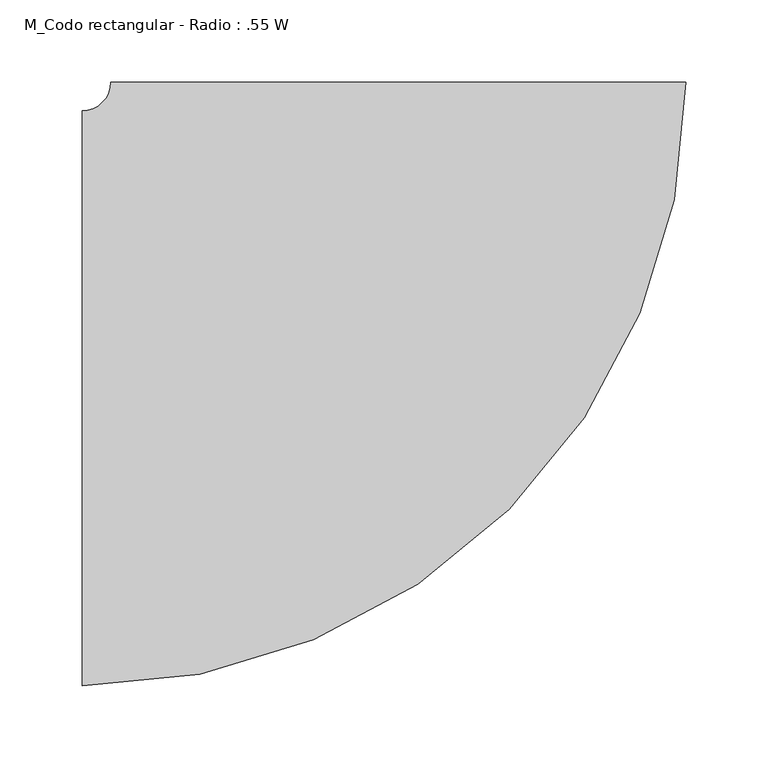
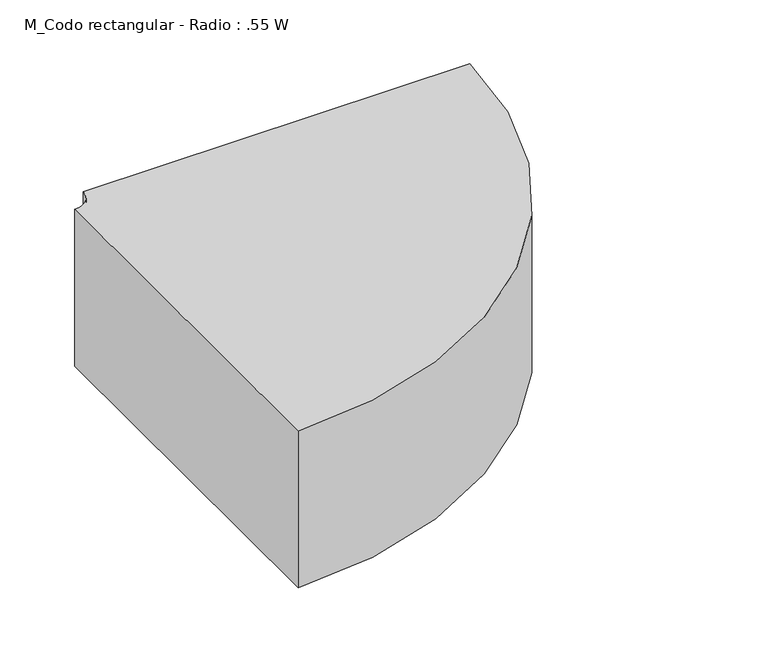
"""IFC4 building model written with IfcOpenShell, lengths in millimetres: duct fitting geometry, M_Codo rectangular - Radio : .55 W."""

import ifcopenshell
import ifcopenshell.guid

model = None  # the IFC model being written
_history = None  # IfcOwnerHistory: only IFC2X3 demands one
_inside = {}  # id of a spatial element -> (the spatial element, [elements in it])
_under = {}  # id of a project, library or spatial element -> (it, [spatial elements below it])
_declared = {}  # id of a project -> (the project, [libraries it declares])
_typed = {}  # id of a type object -> (the type object, [elements of that type])
_made_of = {}  # id of a material, layer set ... -> (it, [elements and type objects made of it])


def new_model(schema):
    """Start an empty IFC model of exactly this schema.

    Asked for "IFC4X3", IfcOpenShell would pick the latest addendum, in which some entities
    have other attributes; the version numbers below select the first issue.
    IFC2X3 requires an IfcOwnerHistory on every rooted entity: one is made here for all.
    """
    global model, _history
    if schema == "IFC4X3":
        model = ifcopenshell.file(schema_version=(4, 3, 0, 0))
    else:
        model = ifcopenshell.file(schema=schema)
    _inside.clear()
    _under.clear()
    _declared.clear()
    _typed.clear()
    _made_of.clear()
    _history = None
    if model.schema == "IFC2X3":
        org = make("IfcOrganization", Name="unknown")
        user = make(
            "IfcPersonAndOrganization",
            ThePerson=make("IfcPerson", FamilyName="unknown"),
            TheOrganization=org,
        )
        app = make(
            "IfcApplication",
            ApplicationDeveloper=org,
            Version="unknown",
            ApplicationFullName="unknown",
            ApplicationIdentifier="unknown",
        )
        _history = make(
            "IfcOwnerHistory",
            OwningUser=user,
            OwningApplication=app,
            ChangeAction="ADDED",
            CreationDate=0,
        )
    return model


def make(cls, **values):
    """One entity of the class cls with the attributes given. An attribute that is None is left unset."""
    return model.create_entity(
        cls, **{name: value for name, value in values.items() if value is not None}
    )


def rooted(cls, **values):
    """An entity with a GlobalId (a new one), such as an element, a storey or a relation."""
    return make(cls, GlobalId=ifcopenshell.guid.new(), OwnerHistory=_history, **values)


def si_unit(unit_type, name, prefix=None):
    """IfcSIUnit, for example si_unit("LENGTHUNIT", "METRE", prefix="MILLI")."""
    return make("IfcSIUnit", UnitType=unit_type, Prefix=prefix, Name=name)


def assignment(units):
    """IfcUnitAssignment: the units of a project."""
    return None if units is None else make("IfcUnitAssignment", Units=units)


def point(xyz):
    """IfcCartesianPoint."""
    return None if xyz is None else make("IfcCartesianPoint", Coordinates=xyz)


def direction(xyz):
    """IfcDirection."""
    return None if xyz is None else make("IfcDirection", DirectionRatios=xyz)


def frame(location, z_axis=None, x_axis=None):
    """IfcAxis2Placement3D, a coordinate frame: its origin and axes. An axis left out is left unset."""
    return make(
        "IfcAxis2Placement3D",
        Location=point(location),
        Axis=direction(z_axis),
        RefDirection=direction(x_axis),
    )


def frame_2d(location, x_axis=None):
    """IfcAxis2Placement2D, a coordinate frame in the plane: its origin and x axis."""
    return make(
        "IfcAxis2Placement2D", Location=point(location), RefDirection=direction(x_axis)
    )


def origin():
    """The frame at (0, 0, 0) with its axes left unset."""
    return frame((0.0, 0.0, 0.0))


def place(relative_to, where):
    """IfcLocalPlacement: puts the frame where relative to a parent placement (None: the world)."""
    return make(
        "IfcLocalPlacement", PlacementRelTo=relative_to, RelativePlacement=where
    )


def context(
    kind, dimensions, precision=None, world=None, true_north=None, identifier=None
):
    """IfcGeometricRepresentationContext, for example the 3D "Model" context."""
    return make(
        "IfcGeometricRepresentationContext",
        ContextIdentifier=identifier,
        ContextType=kind,
        CoordinateSpaceDimension=dimensions,
        Precision=precision,
        WorldCoordinateSystem=world,
        TrueNorth=true_north,
    )


def project(units=None, contexts=None):
    """IfcProject with its units and contexts."""
    return rooted(
        "IfcProject",
        Name="project",
        RepresentationContexts=contexts,
        UnitsInContext=assignment(units),
    )


def spatial(cls, under=None, at=None, **own):
    """A site, building, storey or space (cls), placed at a placement, below another one or the project."""
    s = rooted(cls, ObjectPlacement=at, **own)
    if under is not None:
        _under.setdefault(under.id(), (under, []))[1].append(s)
    return s


def polyline(points):
    """IfcPolyline through the points."""
    return make("IfcPolyline", Points=[point(p) for p in points])


def circle_curve(where, radius):
    """IfcCircle in the frame where."""
    return make("IfcCircle", Position=where, Radius=radius)


def trimmed(basis, trim1, trim2, sense, master):
    """IfcTrimmedCurve: the piece of a basis curve between two trims."""
    return make(
        "IfcTrimmedCurve",
        BasisCurve=basis,
        Trim1=trim1,
        Trim2=trim2,
        SenseAgreement=sense,
        MasterRepresentation=master,
    )


def segment(curve, same_sense, transition):
    """IfcCompositeCurveSegment."""
    return make(
        "IfcCompositeCurveSegment",
        Transition=transition,
        SameSense=same_sense,
        ParentCurve=curve,
    )


def composite_curve(segments, self_intersect=None):
    """IfcCompositeCurve: segments joined end to end."""
    return make("IfcCompositeCurve", Segments=segments, SelfIntersect=self_intersect)


def outline(outer, holes=None, kind="AREA"):
    """IfcArbitraryClosedProfileDef: a profile drawn as a closed curve; with holes, ...WithVoids."""
    if holes is None:
        return make("IfcArbitraryClosedProfileDef", ProfileType=kind, OuterCurve=outer)
    return make(
        "IfcArbitraryProfileDefWithVoids",
        ProfileType=kind,
        OuterCurve=outer,
        InnerCurves=holes,
    )


def extrude(swept, where, along, depth):
    """IfcExtrudedAreaSolid: the profile swept, set in the frame where, extruded along a direction by depth."""
    return make(
        "IfcExtrudedAreaSolid",
        SweptArea=swept,
        Position=where,
        ExtrudedDirection=direction(along),
        Depth=depth,
    )


def shape(context_of_items, identifier, shape_type, items):
    """IfcShapeRepresentation: the items that make up one representation, for example the "Body"."""
    return make(
        "IfcShapeRepresentation",
        ContextOfItems=context_of_items,
        RepresentationIdentifier=identifier,
        RepresentationType=shape_type,
        Items=items,
    )


def source(mapping_origin, context_of_items, identifier, shape_type, items):
    """IfcRepresentationMap: a shape defined once, which mapped items show again and again."""
    return make(
        "IfcRepresentationMap",
        MappingOrigin=mapping_origin,
        MappedRepresentation=shape(context_of_items, identifier, shape_type, items),
    )


def transform(
    local_origin,
    x_axis=None,
    y_axis=None,
    z_axis=None,
    scale=None,
    scale2=None,
    scale3=None,
    uniform=True,
):
    """IfcCartesianTransformationOperator3D, or its non-uniform kind. x_axis, y_axis, z_axis: its Axis1, 2, 3."""
    if uniform:
        return make(
            "IfcCartesianTransformationOperator3D",
            Axis1=direction(x_axis),
            Axis2=direction(y_axis),
            LocalOrigin=point(local_origin),
            Scale=scale,
            Axis3=direction(z_axis),
        )
    return make(
        "IfcCartesianTransformationOperator3DnonUniform",
        Axis1=direction(x_axis),
        Axis2=direction(y_axis),
        LocalOrigin=point(local_origin),
        Scale=scale,
        Axis3=direction(z_axis),
        Scale2=scale2,
        Scale3=scale3,
    )


def mapped(mapping_source, mapping_target):
    """IfcMappedItem: shows the shape of a source again, moved by a transform."""
    return make(
        "IfcMappedItem", MappingSource=mapping_source, MappingTarget=mapping_target
    )


def made_of(thing, what):
    """Note that an element or type object is made of a material, layer set ...; save() writes the relation."""
    if what is not None:
        _made_of.setdefault(what.id(), (what, []))[1].append(thing)
    return thing


def element(
    cls,
    number,
    at=None,
    inside=None,
    cuts=None,
    type_object=None,
    material=None,
    context=None,
    identifier="Body",
    shape_type=None,
    held_by="IfcProductDefinitionShape",
    body=None,
    shapes=None,
    **own,
):
    """One element of the class cls, such as IfcWall. Its Tag is "e" and its number.

    at: its placement. inside: the storey or other place that contains it. cuts: it is an
    opening in that element (IfcRelVoidsElement). A single representation is given by context,
    identifier, shape_type and body (its items); several are given by shapes. held_by: the class
    of the entity that holds the representations. save() writes the other relations.
    """
    e = rooted(cls, Tag="e%d" % number, ObjectPlacement=at, **own)
    if body is not None:
        shapes = [shape(context, identifier, shape_type, body)]
    if shapes is not None:
        e.Representation = make(held_by, Representations=shapes)
    if inside is not None:
        _inside.setdefault(inside.id(), (inside, []))[1].append(e)
    if cuts is not None:
        rooted(
            "IfcRelVoidsElement", RelatingBuildingElement=cuts, RelatedOpeningElement=e
        )
    if type_object is not None:
        _typed.setdefault(type_object.id(), (type_object, []))[1].append(e)
    return made_of(e, material)


def aggregate(whole, parts):
    """IfcRelAggregates: a whole, such as a stair, and the parts it consists of."""
    return rooted("IfcRelAggregates", RelatingObject=whole, RelatedObjects=parts)


def save(model, path):
    """Write the relations noted so far, then the file.

    IfcRelAggregates (storeys below a building ...), IfcRelContainedInSpatialStructure (elements
    in a storey), IfcRelDefinesByType, IfcRelAssociatesMaterial and IfcRelDeclares: one each for
    every whole, place, type object, material and project.
    """
    for whole, parts in _under.values():
        aggregate(whole, parts)
    for where, things in _inside.values():
        rooted(
            "IfcRelContainedInSpatialStructure",
            RelatedElements=things,
            RelatingStructure=where,
        )
    for kind, things in _typed.values():
        rooted("IfcRelDefinesByType", RelatedObjects=things, RelatingType=kind)
    for what, things in _made_of.values():
        rooted("IfcRelAssociatesMaterial", RelatedObjects=things, RelatingMaterial=what)
    for by, libraries in _declared.values():
        rooted("IfcRelDeclares", RelatingContext=by, RelatedDefinitions=libraries)
    model.write(path)


def m_codo_rectangular_radio_55_w_4c35f032(model_context):
    return source(origin(), model_context, "Body", "SweptSolid", [
        extrude(outline(composite_curve([segment(trimmed(circle_curve(frame_2d((-192.5, 192.5)), 367.5), [point((175.0, 192.5))], [point((-192.5, -175.0))], False, "CARTESIAN"), True, "CONTINUOUS"), segment(polyline([(-192.5, -175.0), (-192.5, 175.0)]), True, "CONTINUOUS"), segment(trimmed(circle_curve(frame_2d((-192.5, 192.5)), 17.5), [point((-192.5, 175.0))], [point((-175.0, 192.5))], True, "CARTESIAN"), True, "CONTINUOUS"), segment(polyline([(-175.0, 192.5), (175.0, 192.5)]), True, "CONTINUOUS")], self_intersect=False)), frame((0.0, 0.0, -75.0), z_axis=(0.0, 0.0, 1.0), x_axis=(1.0, 0.0, 0.0)), (0.0, 0.0, 1.0), 150.0),
    ])


if __name__ == "__main__":
    model = new_model("IFC4")
    model_context = context("Model", 3, world=origin())
    ifc_project = project(units=[si_unit("LENGTHUNIT", "METRE", prefix="MILLI")], contexts=[model_context])
    site = spatial("IfcSite", under=ifc_project)
    building = spatial("IfcBuilding", under=site)
    placement = place(None, origin())
    m_codo_rectangular_radio_55_w_shape = m_codo_rectangular_radio_55_w_4c35f032(model_context)
    element("IfcDuctFitting", 1, ObjectType="M_Codo rectangular - Radio : .55 W", at=placement, inside=building, context=model_context, shape_type="MappedRepresentation", body=[
        mapped(m_codo_rectangular_radio_55_w_shape, transform((0.0, 0.0, 0.0), x_axis=(1.0, 0.0, 0.0), y_axis=(0.0, 1.0, 0.0), z_axis=(0.0, 0.0, 1.0))),
    ])
    save(model, "model.ifc")
